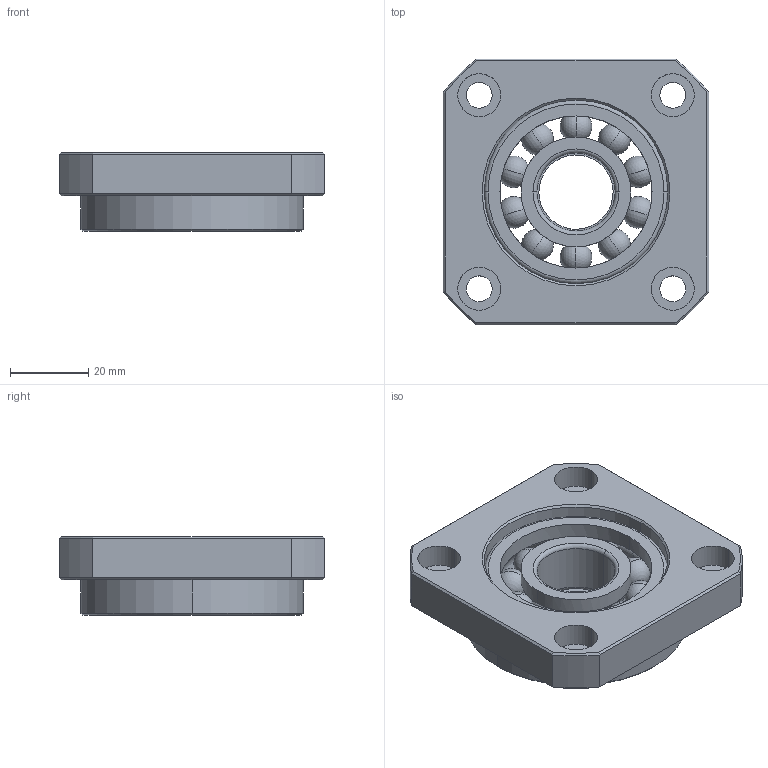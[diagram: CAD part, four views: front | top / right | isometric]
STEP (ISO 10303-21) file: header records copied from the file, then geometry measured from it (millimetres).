
FILE_DESCRIPTION (( 'STEP AP203' ), '1' );
FILE_NAME ('GUR20.STEP', '2014-08-06T03:02:58', ( 'user' ), ( '' ), 'SwSTEP 2.0', 'SolidWorks 2014', '' );
FILE_SCHEMA (( 'CONFIG_CONTROL_DESIGN' ));
Length unit declared in the file: millimetre
Products named in the file (1): GUR20
Bounding box: 68 x 68 x 20 mm (x, y, z)
Surface area: 21657.1 mm2 (no closed solid volume)
Topology: 0 solids, 3 shells, 154 faces, 512 edges, 331 vertices
Faces by surface type: cylinder 48, torus 41, plane 31, sphere 20, cone 14
Entity records: 6187 total; most frequent: CARTESIAN_POINT 1926, ORIENTED_EDGE 940, DIRECTION 850, EDGE_CURVE 472, AXIS2_PLACEMENT_3D 379, VERTEX_POINT 311, CIRCLE 224, EDGE_LOOP 177
